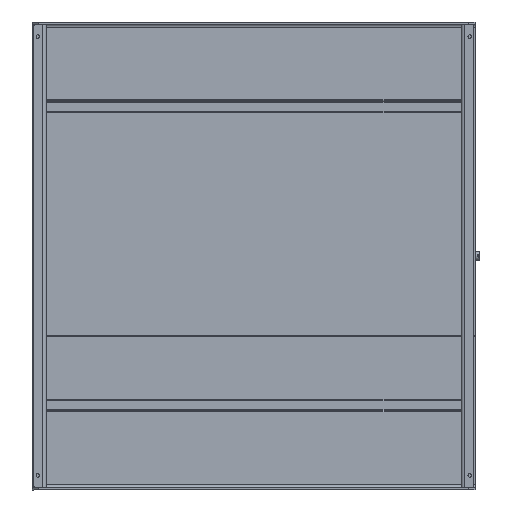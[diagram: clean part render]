
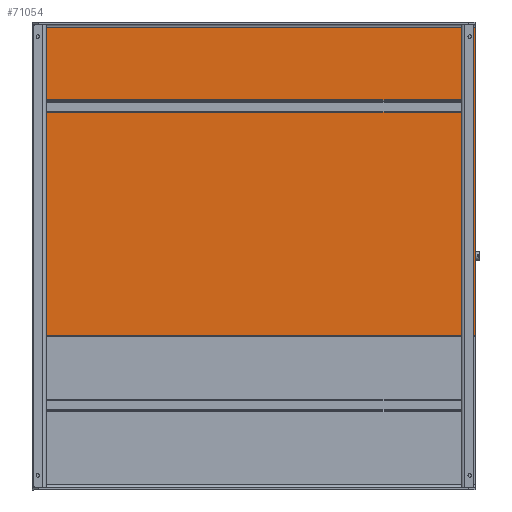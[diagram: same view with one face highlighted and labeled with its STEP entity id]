
A CAD part, front view. The second image highlights one B-rep face of the part: STEP entity #71054.
In plain terms, the highlighted planar face has unit normal (0, -1, 0).
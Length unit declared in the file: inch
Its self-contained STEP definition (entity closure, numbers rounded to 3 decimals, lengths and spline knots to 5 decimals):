
#4768 = LINE ( 'NONE', #29138, #22050 ) ;
#9230 = DIRECTION ( 'NONE',  ( 0., 0., 1. ) ) ;
#9726 = VECTOR ( 'NONE', #47653, 39.37008 ) ;
#10732 = CARTESIAN_POINT ( 'NONE',  ( -45.59172, -3.42689, -24.61369 ) ) ;
#10791 = CARTESIAN_POINT ( 'NONE',  ( -45.59172, -3.42689, 25.54251 ) ) ;
#19419 = EDGE_CURVE ( 'NONE', #78977, #46740, #62174, .T. ) ;
#22050 = VECTOR ( 'NONE', #73348, 39.37008 ) ;
#29138 = CARTESIAN_POINT ( 'NONE',  ( 26.40828, -3.42689, 26.38631 ) ) ;
#30429 = CARTESIAN_POINT ( 'NONE',  ( 26.40828, -3.42689, -24.61369 ) ) ;
#32952 = PLANE ( 'NONE',  #39247 ) ;
#37118 = CARTESIAN_POINT ( 'NONE',  ( 26.40828, -3.42689, 25.54251 ) ) ;
#37531 = VERTEX_POINT ( 'NONE', #37118 ) ;
#38524 = CARTESIAN_POINT ( 'NONE',  ( -45.59172, -3.42689, 25.54251 ) ) ;
#39247 = AXIS2_PLACEMENT_3D ( 'NONE', #62005, #39759, #47860 ) ;
#39759 = DIRECTION ( 'NONE',  ( 0., -1., 0. ) ) ;
#42443 = ORIENTED_EDGE ( 'NONE', *, *, #19419, .F. ) ;
#46395 = CARTESIAN_POINT ( 'NONE',  ( -45.59172, -3.42689, 26.38631 ) ) ;
#46740 = VERTEX_POINT ( 'NONE', #71533 ) ;
#47653 = DIRECTION ( 'NONE',  ( 1., 0., 0. ) ) ;
#47860 = DIRECTION ( 'NONE',  ( 0., 0., -1. ) ) ;
#49060 = LINE ( 'NONE', #10791, #9726 ) ;
#50080 = VECTOR ( 'NONE', #9230, 39.37008 ) ;
#55242 = ORIENTED_EDGE ( 'NONE', *, *, #66001, .F. ) ;
#62005 = CARTESIAN_POINT ( 'NONE',  ( -45.59172, -3.42689, -24.61369 ) ) ;
#62174 = LINE ( 'NONE', #10732, #92108 ) ;
#66001 = EDGE_CURVE ( 'NONE', #46740, #79024, #89201, .T. ) ;
#68193 = ORIENTED_EDGE ( 'NONE', *, *, #95203, .F. ) ;
#71054 = ADVANCED_FACE ( 'NONE', ( #76699 ), #32952, .T. ) ;
#71533 = CARTESIAN_POINT ( 'NONE',  ( -45.59172, -3.42689, -24.61369 ) ) ;
#73348 = DIRECTION ( 'NONE',  ( 0., 0., -1. ) ) ;
#75487 = ORIENTED_EDGE ( 'NONE', *, *, #88159, .F. ) ;
#76699 = FACE_OUTER_BOUND ( 'NONE', #80916, .T. ) ;
#76890 = DIRECTION ( 'NONE',  ( -1., 0., 0. ) ) ;
#78977 = VERTEX_POINT ( 'NONE', #30429 ) ;
#79024 = VERTEX_POINT ( 'NONE', #38524 ) ;
#80916 = EDGE_LOOP ( 'NONE', ( #75487, #68193, #55242, #42443 ) ) ;
#88159 = EDGE_CURVE ( 'NONE', #37531, #78977, #4768, .T. ) ;
#89201 = LINE ( 'NONE', #46395, #50080 ) ;
#92108 = VECTOR ( 'NONE', #76890, 39.37008 ) ;
#95203 = EDGE_CURVE ( 'NONE', #79024, #37531, #49060, .T. ) ;
